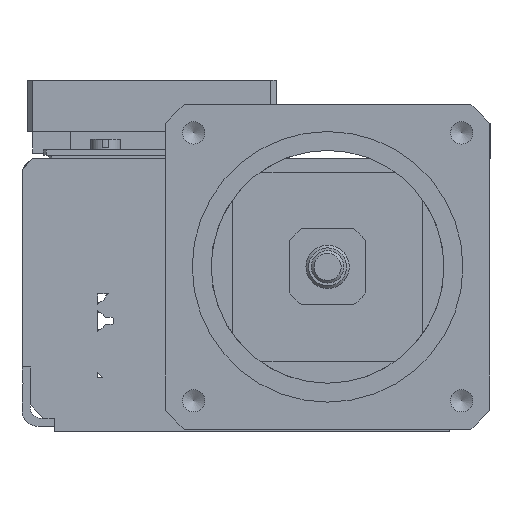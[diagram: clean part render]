
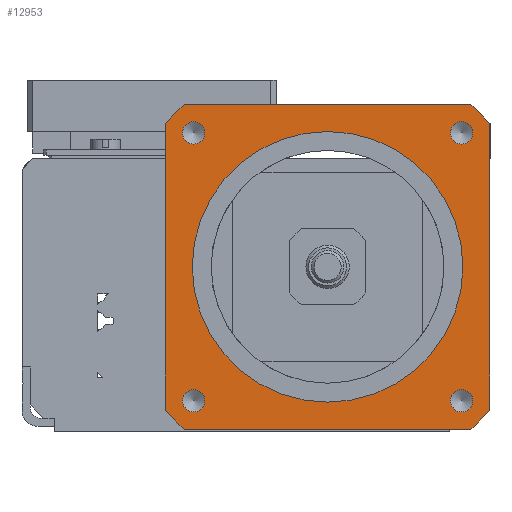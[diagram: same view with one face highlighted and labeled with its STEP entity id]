
A CAD part, left-side view. The second image highlights one B-rep face of the part: STEP entity #12953.
In plain terms, the highlighted planar face has unit normal (-1, 0, 0).
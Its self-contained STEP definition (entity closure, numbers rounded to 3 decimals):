
#11594=CARTESIAN_POINT('',(-66.,12.866,5.751));
#11595=VERTEX_POINT('',#11594);
#11596=CARTESIAN_POINT('',(-66.,10.799,5.751));
#11597=DIRECTION('',(1.0,0.0,0.0));
#11598=DIRECTION('',(0.0,1.0,0.0));
#11599=AXIS2_PLACEMENT_3D('',#11596,#11597,#11598);
#11600=CIRCLE('',#11599,2.067);
#11601=EDGE_CURVE('',#11595,#11595,#11600,.T.);
#11631=CARTESIAN_POINT('',(-66.,-36.632,55.249));
#11632=VERTEX_POINT('',#11631);
#11633=CARTESIAN_POINT('',(-66.,-38.699,55.249));
#11634=DIRECTION('',(1.0,0.0,0.0));
#11635=DIRECTION('',(0.0,1.0,0.0));
#11636=AXIS2_PLACEMENT_3D('',#11633,#11634,#11635);
#11637=CIRCLE('',#11636,2.067);
#11638=EDGE_CURVE('',#11632,#11632,#11637,.T.);
#11668=CARTESIAN_POINT('',(-66.,12.866,55.249));
#11669=VERTEX_POINT('',#11668);
#11670=CARTESIAN_POINT('',(-66.,10.799,55.249));
#11671=DIRECTION('',(1.0,0.0,0.0));
#11672=DIRECTION('',(0.0,1.0,0.0));
#11673=AXIS2_PLACEMENT_3D('',#11670,#11671,#11672);
#11674=CIRCLE('',#11673,2.067);
#11675=EDGE_CURVE('',#11669,#11669,#11674,.T.);
#11705=CARTESIAN_POINT('',(-66.,-36.632,5.751));
#11706=VERTEX_POINT('',#11705);
#11707=CARTESIAN_POINT('',(-66.,-38.699,5.751));
#11708=DIRECTION('',(1.0,0.0,0.0));
#11709=DIRECTION('',(0.0,1.0,0.0));
#11710=AXIS2_PLACEMENT_3D('',#11707,#11708,#11709);
#11711=CIRCLE('',#11710,2.067);
#11712=EDGE_CURVE('',#11706,#11706,#11711,.T.);
#12614=CARTESIAN_POINT('',(-66.,-13.95,55.5));
#12615=VERTEX_POINT('',#12614);
#12616=CARTESIAN_POINT('',(-66.,-13.95,30.5));
#12617=DIRECTION('',(1.0,0.0,0.0));
#12618=DIRECTION('',(0.0,0.0,1.0));
#12619=AXIS2_PLACEMENT_3D('',#12616,#12617,#12618);
#12620=CIRCLE('',#12619,25.);
#12621=EDGE_CURVE('',#12615,#12615,#12620,.T.);
#12733=CARTESIAN_POINT('',(-66.,-40.408,0.5));
#12734=VERTEX_POINT('',#12733);
#12741=CARTESIAN_POINT('',(-66.,12.508,0.5));
#12742=VERTEX_POINT('',#12741);
#12743=CARTESIAN_POINT('',(-66.,-40.408,0.5));
#12744=DIRECTION('',(0.0,1.0,0.0));
#12745=VECTOR('',#12744,52.915);
#12746=LINE('',#12743,#12745);
#12747=EDGE_CURVE('',#12734,#12742,#12746,.T.);
#12764=CARTESIAN_POINT('',(-66.,-43.95,4.042));
#12765=VERTEX_POINT('',#12764);
#12772=CARTESIAN_POINT('',(-66.,-13.95,30.5));
#12773=DIRECTION('',(1.0,0.0,0.0));
#12774=DIRECTION('',(0.0,1.0,0.0));
#12775=AXIS2_PLACEMENT_3D('',#12772,#12773,#12774);
#12776=CIRCLE('',#12775,40.0);
#12777=EDGE_CURVE('',#12765,#12734,#12776,.T.);
#12789=CARTESIAN_POINT('',(-66.,-43.95,56.958));
#12790=VERTEX_POINT('',#12789);
#12797=CARTESIAN_POINT('',(-66.,-43.95,56.958));
#12798=DIRECTION('',(0.0,0.0,-1.0));
#12799=VECTOR('',#12798,52.915);
#12800=LINE('',#12797,#12799);
#12801=EDGE_CURVE('',#12790,#12765,#12800,.T.);
#12813=CARTESIAN_POINT('',(-66.,-40.408,60.5));
#12814=VERTEX_POINT('',#12813);
#12821=CARTESIAN_POINT('',(-66.,-13.95,30.5));
#12822=DIRECTION('',(1.0,0.0,0.0));
#12823=DIRECTION('',(0.0,1.0,0.0));
#12824=AXIS2_PLACEMENT_3D('',#12821,#12822,#12823);
#12825=CIRCLE('',#12824,40.0);
#12826=EDGE_CURVE('',#12814,#12790,#12825,.T.);
#12838=CARTESIAN_POINT('',(-66.,12.508,60.5));
#12839=VERTEX_POINT('',#12838);
#12846=CARTESIAN_POINT('',(-66.,12.508,60.5));
#12847=DIRECTION('',(0.0,-1.0,0.0));
#12848=VECTOR('',#12847,52.915);
#12849=LINE('',#12846,#12848);
#12850=EDGE_CURVE('',#12839,#12814,#12849,.T.);
#12862=CARTESIAN_POINT('',(-66.,16.05,56.958));
#12863=VERTEX_POINT('',#12862);
#12870=CARTESIAN_POINT('',(-66.,-13.95,30.5));
#12871=DIRECTION('',(1.0,0.0,0.0));
#12872=DIRECTION('',(0.0,1.0,0.0));
#12873=AXIS2_PLACEMENT_3D('',#12870,#12871,#12872);
#12874=CIRCLE('',#12873,40.0);
#12875=EDGE_CURVE('',#12863,#12839,#12874,.T.);
#12887=CARTESIAN_POINT('',(-66.,16.05,4.042));
#12888=VERTEX_POINT('',#12887);
#12895=CARTESIAN_POINT('',(-66.,16.05,4.042));
#12896=DIRECTION('',(0.0,0.0,1.0));
#12897=VECTOR('',#12896,52.915);
#12898=LINE('',#12895,#12897);
#12899=EDGE_CURVE('',#12888,#12863,#12898,.T.);
#12912=CARTESIAN_POINT('',(-66.,-13.95,30.5));
#12913=DIRECTION('',(1.0,0.0,0.0));
#12914=DIRECTION('',(0.0,1.0,0.0));
#12915=AXIS2_PLACEMENT_3D('',#12912,#12913,#12914);
#12916=CIRCLE('',#12915,40.0);
#12917=EDGE_CURVE('',#12742,#12888,#12916,.T.);
#12923=CARTESIAN_POINT('',(-66.,-13.95,30.5));
#12924=DIRECTION('',(1.0,0.0,0.0));
#12925=DIRECTION('',(0.0,0.0,-1.0));
#12926=AXIS2_PLACEMENT_3D('',#12923,#12924,#12925);
#12927=PLANE('',#12926);
#12928=ORIENTED_EDGE('',*,*,#12801,.F.);
#12929=ORIENTED_EDGE('',*,*,#12826,.F.);
#12930=ORIENTED_EDGE('',*,*,#12850,.F.);
#12931=ORIENTED_EDGE('',*,*,#12875,.F.);
#12932=ORIENTED_EDGE('',*,*,#12899,.F.);
#12933=ORIENTED_EDGE('',*,*,#12917,.F.);
#12934=ORIENTED_EDGE('',*,*,#12747,.F.);
#12935=ORIENTED_EDGE('',*,*,#12777,.F.);
#12936=EDGE_LOOP('',(#12928,#12929,#12930,#12931,#12932,#12933,#12934,#12935));
#12937=FACE_OUTER_BOUND('',#12936,.T.);
#12938=ORIENTED_EDGE('',*,*,#11601,.T.);
#12939=EDGE_LOOP('',(#12938));
#12940=FACE_BOUND('',#12939,.T.);
#12941=ORIENTED_EDGE('',*,*,#11638,.T.);
#12942=EDGE_LOOP('',(#12941));
#12943=FACE_BOUND('',#12942,.T.);
#12944=ORIENTED_EDGE('',*,*,#11675,.T.);
#12945=EDGE_LOOP('',(#12944));
#12946=FACE_BOUND('',#12945,.T.);
#12947=ORIENTED_EDGE('',*,*,#11712,.T.);
#12948=EDGE_LOOP('',(#12947));
#12949=FACE_BOUND('',#12948,.T.);
#12950=ORIENTED_EDGE('',*,*,#12621,.T.);
#12951=EDGE_LOOP('',(#12950));
#12952=FACE_BOUND('',#12951,.T.);
#12953=ADVANCED_FACE('',(#12937,#12940,#12943,#12946,#12949,#12952),#12927,.F.);
